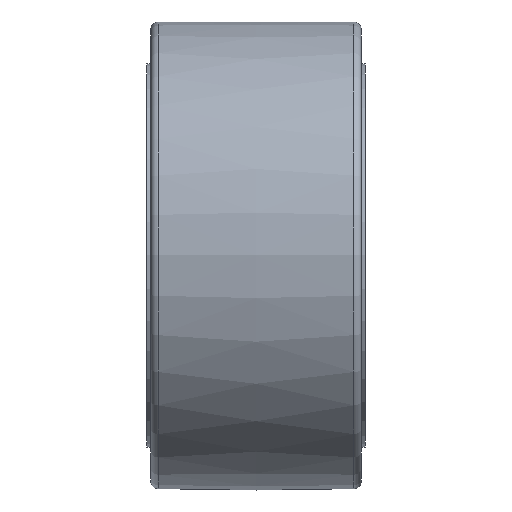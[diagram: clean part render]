
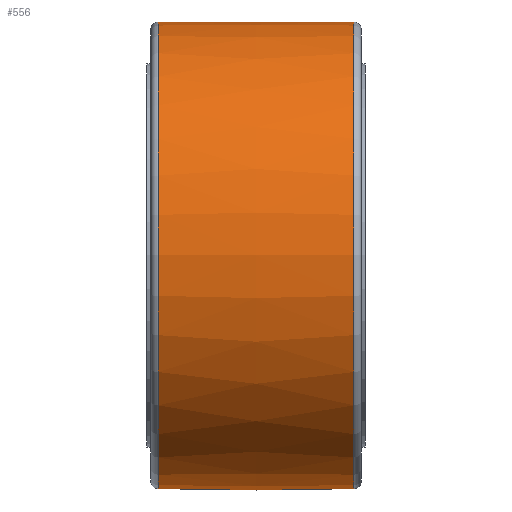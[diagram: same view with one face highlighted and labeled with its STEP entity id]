
A CAD part, front view. The second image highlights one B-rep face of the part: STEP entity #556.
In plain terms, the highlighted free-form (B-spline) face has degree [2, 2] with [3, 9] control points.
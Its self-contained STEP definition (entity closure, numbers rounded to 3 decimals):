
#183=(
BOUNDED_CURVE()
B_SPLINE_CURVE(2,(#1160,#1161,#1162),.UNSPECIFIED.,.F.,.F.)
B_SPLINE_CURVE_WITH_KNOTS((3,3),(-0.026,0.026),
 .UNSPECIFIED.)
CURVE()
GEOMETRIC_REPRESENTATION_ITEM()
RATIONAL_B_SPLINE_CURVE((1.,1.,1.))
REPRESENTATION_ITEM('')
);
#184=(
BOUNDED_SURFACE()
B_SPLINE_SURFACE(2,2,((#1129,#1130,#1131,#1132,#1133,#1134,#1135,#1136,
#1137),(#1138,#1139,#1140,#1141,#1142,#1143,#1144,#1145,#1146),(#1147,#1148,
#1149,#1150,#1151,#1152,#1153,#1154,#1155)),.UNSPECIFIED.,.F.,.T.,.F.)
B_SPLINE_SURFACE_WITH_KNOTS((3,3),(3,2,2,2,3),(-0.026,0.026),
(-3.142,-1.571,0.,1.571,3.142),
 .UNSPECIFIED.)
GEOMETRIC_REPRESENTATION_ITEM()
RATIONAL_B_SPLINE_SURFACE(((1.,0.707,1.,0.707,1.,
0.707,1.,0.707,1.),(1.,0.707,
1.,0.707,1.,0.707,
1.,0.707,1.),(1.,0.707,
1.,0.707,1.,0.707,1.,0.707,1.)))
REPRESENTATION_ITEM('')
SURFACE()
);
#238=CIRCLE('',#701,31.026);
#239=CIRCLE('',#702,31.026);
#240=CIRCLE('',#703,31.026);
#241=CIRCLE('',#704,31.026);
#307=FACE_OUTER_BOUND('',#362,.T.);
#362=EDGE_LOOP('',(#497,#498,#499,#500,#501,#502));
#404=VERTEX_POINT('',#1125);
#405=VERTEX_POINT('',#1126);
#406=VERTEX_POINT('',#1156);
#407=VERTEX_POINT('',#1157);
#438=EDGE_CURVE('',#404,#405,#238,.T.);
#439=EDGE_CURVE('',#405,#404,#239,.T.);
#440=EDGE_CURVE('',#406,#407,#240,.T.);
#441=EDGE_CURVE('',#407,#406,#241,.T.);
#442=EDGE_CURVE('',#407,#405,#183,.T.);
#497=ORIENTED_EDGE('',*,*,#440,.F.);
#498=ORIENTED_EDGE('',*,*,#441,.F.);
#499=ORIENTED_EDGE('',*,*,#442,.T.);
#500=ORIENTED_EDGE('',*,*,#438,.F.);
#501=ORIENTED_EDGE('',*,*,#439,.F.);
#502=ORIENTED_EDGE('',*,*,#442,.F.);
#556=ADVANCED_FACE('',(#307),#184,.F.);
#701=AXIS2_PLACEMENT_3D('',#1127,#861,#862);
#702=AXIS2_PLACEMENT_3D('',#1128,#863,#864);
#703=AXIS2_PLACEMENT_3D('',#1158,#865,#866);
#704=AXIS2_PLACEMENT_3D('',#1159,#867,#868);
#861=DIRECTION('center_axis',(-1.,0.,0.));
#862=DIRECTION('ref_axis',(0.,-1.,0.));
#863=DIRECTION('center_axis',(-1.,0.,0.));
#864=DIRECTION('ref_axis',(0.,-1.,0.));
#865=DIRECTION('center_axis',(1.,0.,0.));
#866=DIRECTION('ref_axis',(0.,-1.,0.));
#867=DIRECTION('center_axis',(1.,0.,0.));
#868=DIRECTION('ref_axis',(0.,-1.,0.));
#1125=CARTESIAN_POINT('',(-13.026,31.026,0.));
#1126=CARTESIAN_POINT('',(-13.026,0.,31.026));
#1127=CARTESIAN_POINT('Origin',(-13.026,0.,
0.));
#1128=CARTESIAN_POINT('Origin',(-13.026,0.,
0.));
#1129=CARTESIAN_POINT('Ctrl Pts',(-13.026,0.,
31.026));
#1130=CARTESIAN_POINT('Ctrl Pts',(-13.026,-31.026,31.026));
#1131=CARTESIAN_POINT('Ctrl Pts',(-13.026,-31.026,0.));
#1132=CARTESIAN_POINT('Ctrl Pts',(-13.026,-31.026,-31.026));
#1133=CARTESIAN_POINT('Ctrl Pts',(-13.026,0.,
-31.026));
#1134=CARTESIAN_POINT('Ctrl Pts',(-13.026,31.026,-31.026));
#1135=CARTESIAN_POINT('Ctrl Pts',(-13.026,31.026,0.));
#1136=CARTESIAN_POINT('Ctrl Pts',(-13.026,31.026,31.026));
#1137=CARTESIAN_POINT('Ctrl Pts',(-13.026,0.,
31.026));
#1138=CARTESIAN_POINT('Ctrl Pts',(0.,0.,
31.366));
#1139=CARTESIAN_POINT('Ctrl Pts',(0.,-31.366,
31.366));
#1140=CARTESIAN_POINT('Ctrl Pts',(0.,-31.366,
0.));
#1141=CARTESIAN_POINT('Ctrl Pts',(0.,-31.366,
-31.366));
#1142=CARTESIAN_POINT('Ctrl Pts',(0.,0.,
-31.366));
#1143=CARTESIAN_POINT('Ctrl Pts',(0.,31.366,
-31.366));
#1144=CARTESIAN_POINT('Ctrl Pts',(0.,31.366,
0.));
#1145=CARTESIAN_POINT('Ctrl Pts',(0.,31.366,
31.366));
#1146=CARTESIAN_POINT('Ctrl Pts',(0.,0.,
31.366));
#1147=CARTESIAN_POINT('Ctrl Pts',(13.026,0.,
31.026));
#1148=CARTESIAN_POINT('Ctrl Pts',(13.026,-31.026,31.026));
#1149=CARTESIAN_POINT('Ctrl Pts',(13.026,-31.026,0.));
#1150=CARTESIAN_POINT('Ctrl Pts',(13.026,-31.026,-31.026));
#1151=CARTESIAN_POINT('Ctrl Pts',(13.026,0.,
-31.026));
#1152=CARTESIAN_POINT('Ctrl Pts',(13.026,31.026,-31.026));
#1153=CARTESIAN_POINT('Ctrl Pts',(13.026,31.026,0.));
#1154=CARTESIAN_POINT('Ctrl Pts',(13.026,31.026,31.026));
#1155=CARTESIAN_POINT('Ctrl Pts',(13.026,0.,
31.026));
#1156=CARTESIAN_POINT('',(13.026,31.026,0.));
#1157=CARTESIAN_POINT('',(13.026,0.,31.026));
#1158=CARTESIAN_POINT('Origin',(13.026,0.,0.));
#1159=CARTESIAN_POINT('Origin',(13.026,0.,0.));
#1160=CARTESIAN_POINT('Ctrl Pts',(13.026,0.,
31.026));
#1161=CARTESIAN_POINT('Ctrl Pts',(0.,0.,
31.366));
#1162=CARTESIAN_POINT('Ctrl Pts',(-13.026,0.,
31.026));
